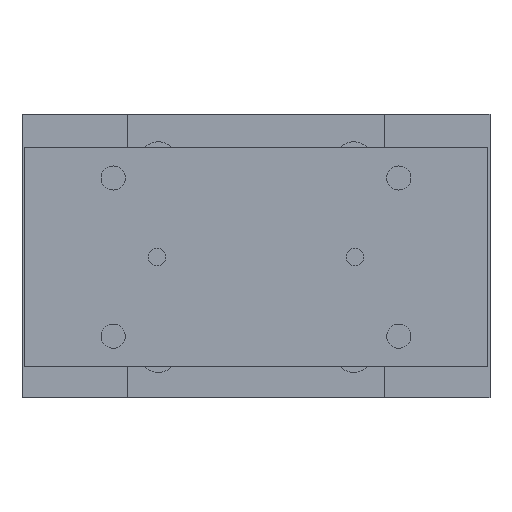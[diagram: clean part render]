
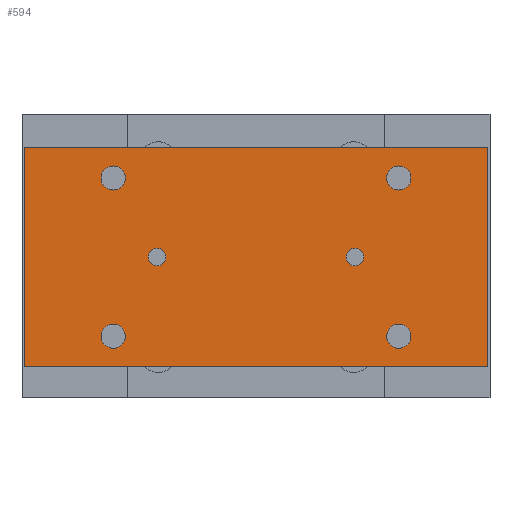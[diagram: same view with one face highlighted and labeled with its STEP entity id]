
A CAD part, left-side view. The second image highlights one B-rep face of the part: STEP entity #594.
In plain terms, the highlighted planar face has unit normal (-1, 0, 0).
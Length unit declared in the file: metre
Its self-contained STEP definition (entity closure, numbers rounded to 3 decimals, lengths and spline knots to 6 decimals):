
#594 = ADVANCED_FACE( '', ( #1338, #1339, #1340, #1341, #1342, #1343, #1344 ), #1345, .T. );
#1338 = FACE_BOUND( '', #2136, .T. );
#1339 = FACE_BOUND( '', #2137, .T. );
#1340 = FACE_BOUND( '', #2138, .T. );
#1341 = FACE_BOUND( '', #2139, .T. );
#1342 = FACE_BOUND( '', #2140, .T. );
#1343 = FACE_BOUND( '', #2141, .T. );
#1344 = FACE_OUTER_BOUND( '', #2142, .T. );
#1345 = PLANE( '', #2143 );
#2136 = EDGE_LOOP( '', ( #3541 ) );
#2137 = EDGE_LOOP( '', ( #3542 ) );
#2138 = EDGE_LOOP( '', ( #3543 ) );
#2139 = EDGE_LOOP( '', ( #3544 ) );
#2140 = EDGE_LOOP( '', ( #3545 ) );
#2141 = EDGE_LOOP( '', ( #3546 ) );
#2142 = EDGE_LOOP( '', ( #3547, #3548, #3549, #3550 ) );
#2143 = AXIS2_PLACEMENT_3D( '', #3551, #3552, #3553 );
#3541 = ORIENTED_EDGE( '', *, *, #3819, .F. );
#3542 = ORIENTED_EDGE( '', *, *, #3923, .F. );
#3543 = ORIENTED_EDGE( '', *, *, #4246, .F. );
#3544 = ORIENTED_EDGE( '', *, *, #4130, .F. );
#3545 = ORIENTED_EDGE( '', *, *, #4070, .F. );
#3546 = ORIENTED_EDGE( '', *, *, #3985, .T. );
#3547 = ORIENTED_EDGE( '', *, *, #4286, .T. );
#3548 = ORIENTED_EDGE( '', *, *, #4207, .T. );
#3549 = ORIENTED_EDGE( '', *, *, #4273, .T. );
#3550 = ORIENTED_EDGE( '', *, *, #4187, .T. );
#3551 = CARTESIAN_POINT( '', ( -0.1445, -0.1055, -0.015 ) );
#3552 = DIRECTION( '', ( -1., 0., 0. ) );
#3553 = DIRECTION( '', ( 0., -1., 0. ) );
#3819 = EDGE_CURVE( '', #4407, #4407, #4408, .T. );
#3923 = EDGE_CURVE( '', #4576, #4576, #4577, .T. );
#3985 = EDGE_CURVE( '', #4675, #4675, #4676, .T. );
#4070 = EDGE_CURVE( '', #4806, #4806, #4807, .T. );
#4130 = EDGE_CURVE( '', #4898, #4898, #4899, .T. );
#4187 = EDGE_CURVE( '', #4978, #4976, #4979, .T. );
#4207 = EDGE_CURVE( '', #5005, #5003, #5006, .T. );
#4246 = EDGE_CURVE( '', #5053, #5053, #5054, .T. );
#4273 = EDGE_CURVE( '', #5003, #4978, #5086, .T. );
#4286 = EDGE_CURVE( '', #4976, #5005, #5101, .T. );
#4407 = VERTEX_POINT( '', #5281 );
#4408 = CIRCLE( '', #5282, 0.0055 );
#4576 = VERTEX_POINT( '', #5523 );
#4577 = CIRCLE( '', #5524, 0.0055 );
#4675 = VERTEX_POINT( '', #5650 );
#4676 = CIRCLE( '', #5651, 0.004 );
#4806 = VERTEX_POINT( '', #5839 );
#4807 = CIRCLE( '', #5840, 0.004 );
#4898 = VERTEX_POINT( '', #6022 );
#4899 = CIRCLE( '', #6023, 0.0055 );
#4976 = VERTEX_POINT( '', #6183 );
#4978 = VERTEX_POINT( '', #6186 );
#4979 = LINE( '', #6187, #6188 );
#5003 = VERTEX_POINT( '', #6224 );
#5005 = VERTEX_POINT( '', #6227 );
#5006 = LINE( '', #6228, #6229 );
#5053 = VERTEX_POINT( '', #6291 );
#5054 = CIRCLE( '', #6292, 0.0055 );
#5086 = LINE( '', #6326, #6327 );
#5101 = LINE( '', #6377, #6378 );
#5281 = CARTESIAN_POINT( '', ( -0.1445, -0.0705, -0.101 ) );
#5282 = AXIS2_PLACEMENT_3D( '', #6477, #6478, #6479 );
#5523 = CARTESIAN_POINT( '', ( -0.1445, 0.0595, -0.101 ) );
#5524 = AXIS2_PLACEMENT_3D( '', #6625, #6626, #6627 );
#5650 = CARTESIAN_POINT( '', ( -0.1445, 0.045, -0.069 ) );
#5651 = AXIS2_PLACEMENT_3D( '', #6704, #6705, #6706 );
#5839 = CARTESIAN_POINT( '', ( -0.1445, -0.045, -0.069 ) );
#5840 = AXIS2_PLACEMENT_3D( '', #6813, #6814, #6815 );
#6022 = CARTESIAN_POINT( '', ( -0.1445, 0.0595, -0.029 ) );
#6023 = AXIS2_PLACEMENT_3D( '', #6874, #6875, #6876 );
#6183 = CARTESIAN_POINT( '', ( -0.1445, -0.1055, -0.115 ) );
#6186 = CARTESIAN_POINT( '', ( -0.1445, 0.1055, -0.115 ) );
#6187 = CARTESIAN_POINT( '', ( -0.1445, 0.1055, -0.115 ) );
#6188 = VECTOR( '', #6925, 1. );
#6224 = CARTESIAN_POINT( '', ( -0.1445, 0.1055, -0.015 ) );
#6227 = CARTESIAN_POINT( '', ( -0.1445, -0.1055, -0.015 ) );
#6228 = CARTESIAN_POINT( '', ( -0.1445, -0.1055, -0.015 ) );
#6229 = VECTOR( '', #6939, 1. );
#6291 = CARTESIAN_POINT( '', ( -0.1445, -0.0705, -0.029 ) );
#6292 = AXIS2_PLACEMENT_3D( '', #6973, #6974, #6975 );
#6326 = CARTESIAN_POINT( '', ( -0.1445, 0.1055, -0.015 ) );
#6327 = VECTOR( '', #6996, 1. );
#6377 = CARTESIAN_POINT( '', ( -0.1445, -0.1055, -0.115 ) );
#6378 = VECTOR( '', #7002, 1. );
#6477 = CARTESIAN_POINT( '', ( -0.1445, -0.065, -0.101 ) );
#6478 = DIRECTION( '', ( -1., 0., 0. ) );
#6479 = DIRECTION( '', ( 0., -1., 0. ) );
#6625 = CARTESIAN_POINT( '', ( -0.1445, 0.065, -0.101 ) );
#6626 = DIRECTION( '', ( -1., 0., 0. ) );
#6627 = DIRECTION( '', ( 0., -1., 0. ) );
#6704 = CARTESIAN_POINT( '', ( -0.1445, 0.045, -0.065 ) );
#6705 = DIRECTION( '', ( 1., 0., 0. ) );
#6706 = DIRECTION( '', ( 0., 0., -1. ) );
#6813 = CARTESIAN_POINT( '', ( -0.1445, -0.045, -0.065 ) );
#6814 = DIRECTION( '', ( -1., 0., 0. ) );
#6815 = DIRECTION( '', ( 0., 0., -1. ) );
#6874 = CARTESIAN_POINT( '', ( -0.1445, 0.065, -0.029 ) );
#6875 = DIRECTION( '', ( -1., 0., 0. ) );
#6876 = DIRECTION( '', ( 0., -1., 0. ) );
#6925 = DIRECTION( '', ( 0., -1., 0. ) );
#6939 = DIRECTION( '', ( 0., 1., 0. ) );
#6973 = CARTESIAN_POINT( '', ( -0.1445, -0.065, -0.029 ) );
#6974 = DIRECTION( '', ( -1., 0., 0. ) );
#6975 = DIRECTION( '', ( 0., -1., 0. ) );
#6996 = DIRECTION( '', ( 0., 0., -1. ) );
#7002 = DIRECTION( '', ( 0., 0., 1. ) );
